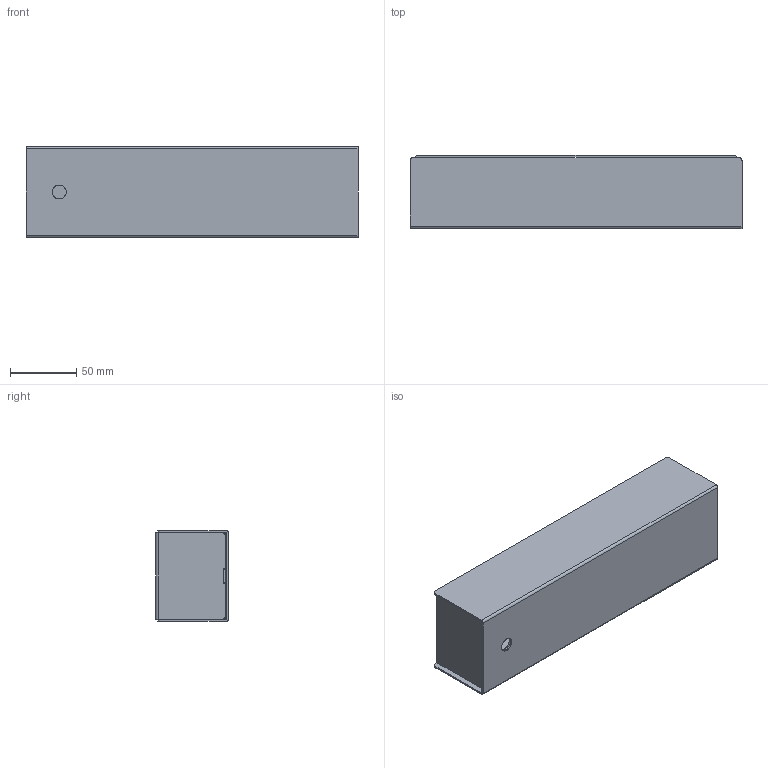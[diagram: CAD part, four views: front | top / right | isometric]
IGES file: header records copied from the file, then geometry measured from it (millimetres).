
Start section: SolidWorks IGES file using analytic representation for surfaces
Global section: file name: C:\Users\tungari.NEMOLIGHTING\Desktop\3D\PENDANT\ACCESSORIES\tru\Nuova cartella\def\3D_POWER_SUPPLY_90W.IGS; native system: SolidWorks 2016; preprocessor: SolidWorks 2016; author: tungari; date: 180409.141959; units: millimetre
Bounding box: 250 x 54.9 x 68.4 mm (x, y, z)
Surface area: 134724.7 mm2 (no closed solid volume)
Topology: 0 solids, 0 shells, 175 faces, 2100 edges, 2100 vertices
Faces by surface type: bspline 105, revolution 70
